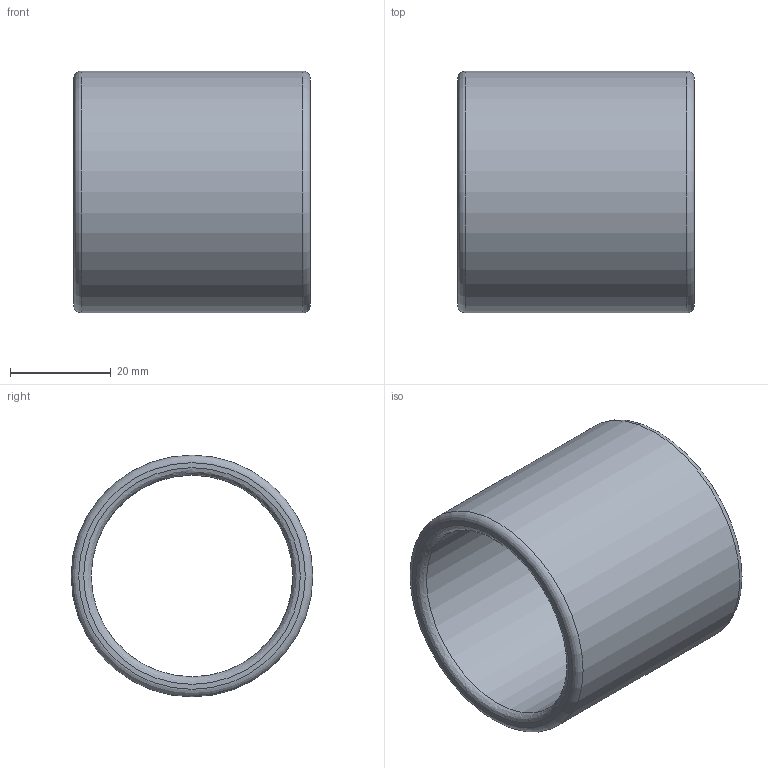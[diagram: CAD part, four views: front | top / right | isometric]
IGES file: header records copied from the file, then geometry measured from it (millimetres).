
Global section: file name: BLAG3247.ipt; native system: Autodesk Inventor 2021; preprocessor: unknown; author: SM; date: 20211207.142103; units: millimetre
Bounding box: 47 x 48 x 48 mm (x, y, z)
Volume: 25720.3 mm3; surface area: 13743.5 mm2
Topology: 1 solids, 1 shells, 8 faces, 24 edges, 18 vertices
Faces by surface type: revolution 5, plane 2, cylinder 1
Full cylindrical faces by diameter (mm): 48 x1
